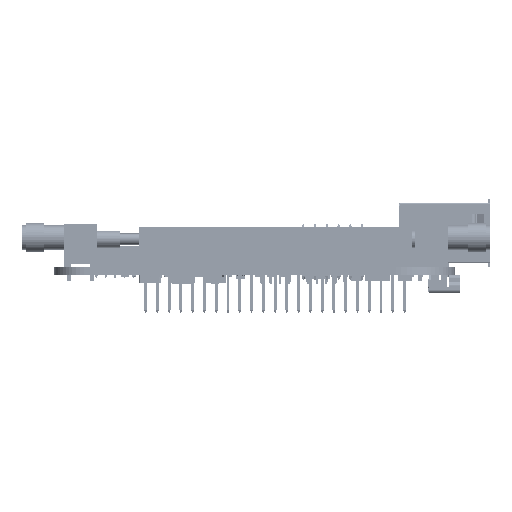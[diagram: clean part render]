
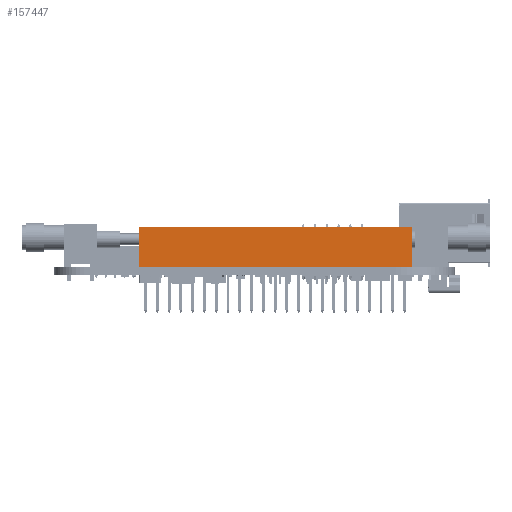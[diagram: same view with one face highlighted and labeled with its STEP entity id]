
A CAD part, front view. The second image highlights one B-rep face of the part: STEP entity #157447.
In plain terms, the highlighted free-form (B-spline) face has degree [1, 1] with [2, 2] control points.
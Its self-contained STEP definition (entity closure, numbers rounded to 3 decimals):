
#157447 = ADVANCED_FACE('',(#157448),#157462,.T.);
#157448 = FACE_BOUND('',#157449,.T.);
#157449 = EDGE_LOOP('',(#157450,#157472,#157487,#157502));
#157450 = ORIENTED_EDGE('',*,*,#157451,.T.);
#157451 = EDGE_CURVE('',#157452,#157454,#157456,.T.);
#157452 = VERTEX_POINT('',#157453);
#157453 = CARTESIAN_POINT('',(-29.464,-4.255,-2.515));
#157454 = VERTEX_POINT('',#157455);
#157455 = CARTESIAN_POINT('',(29.464,-4.255,-2.515));
#157456 = SURFACE_CURVE('',#157457,(#157461),.PCURVE_S1.);
#157457 = LINE('',#157458,#157459);
#157458 = CARTESIAN_POINT('',(-29.464,-4.255,-2.515));
#157459 = VECTOR('',#157460,1.);
#157460 = DIRECTION('',(1.,0.,0.));
#157461 = PCURVE('',#157462,#157467);
#157462 = B_SPLINE_SURFACE_WITH_KNOTS('',1,1,(
    (#157463,#157464)
    ,(#157465,#157466
    )),.UNSPECIFIED.,.F.,.F.,.F.,(2,2),(2,2),(0.,1.),(0.,1.),
  .PIECEWISE_BEZIER_KNOTS.);
#157463 = CARTESIAN_POINT('',(-29.464,-4.255,-2.515));
#157464 = CARTESIAN_POINT('',(-29.464,4.255,-2.515));
#157465 = CARTESIAN_POINT('',(29.464,-4.255,-2.515));
#157466 = CARTESIAN_POINT('',(29.464,4.255,-2.515));
#157467 = DEFINITIONAL_REPRESENTATION('',(#157468),#157471);
#157468 = B_SPLINE_CURVE_WITH_KNOTS('',1,(#157469,#157470),
  .UNSPECIFIED.,.F.,.F.,(2,2),(0.,58.928),
  .PIECEWISE_BEZIER_KNOTS.);
#157469 = CARTESIAN_POINT('',(0.,0.));
#157470 = CARTESIAN_POINT('',(1.,0.));
#157471 = ( GEOMETRIC_REPRESENTATION_CONTEXT(2) 
PARAMETRIC_REPRESENTATION_CONTEXT() REPRESENTATION_CONTEXT('2D SPACE',''
  ) );
#157472 = ORIENTED_EDGE('',*,*,#157473,.T.);
#157473 = EDGE_CURVE('',#157454,#157474,#157476,.T.);
#157474 = VERTEX_POINT('',#157475);
#157475 = CARTESIAN_POINT('',(29.464,4.255,-2.515));
#157476 = SURFACE_CURVE('',#157477,(#157481),.PCURVE_S1.);
#157477 = LINE('',#157478,#157479);
#157478 = CARTESIAN_POINT('',(29.464,-4.255,-2.515));
#157479 = VECTOR('',#157480,1.);
#157480 = DIRECTION('',(0.,1.,0.));
#157481 = PCURVE('',#157462,#157482);
#157482 = DEFINITIONAL_REPRESENTATION('',(#157483),#157486);
#157483 = B_SPLINE_CURVE_WITH_KNOTS('',1,(#157484,#157485),
  .UNSPECIFIED.,.F.,.F.,(2,2),(0.,8.509),.PIECEWISE_BEZIER_KNOTS.);
#157484 = CARTESIAN_POINT('',(1.,0.));
#157485 = CARTESIAN_POINT('',(1.,1.));
#157486 = ( GEOMETRIC_REPRESENTATION_CONTEXT(2) 
PARAMETRIC_REPRESENTATION_CONTEXT() REPRESENTATION_CONTEXT('2D SPACE',''
  ) );
#157487 = ORIENTED_EDGE('',*,*,#157488,.T.);
#157488 = EDGE_CURVE('',#157474,#157489,#157491,.T.);
#157489 = VERTEX_POINT('',#157490);
#157490 = CARTESIAN_POINT('',(-29.464,4.255,-2.515));
#157491 = SURFACE_CURVE('',#157492,(#157496),.PCURVE_S1.);
#157492 = LINE('',#157493,#157494);
#157493 = CARTESIAN_POINT('',(29.464,4.255,-2.515));
#157494 = VECTOR('',#157495,1.);
#157495 = DIRECTION('',(-1.,0.,0.));
#157496 = PCURVE('',#157462,#157497);
#157497 = DEFINITIONAL_REPRESENTATION('',(#157498),#157501);
#157498 = B_SPLINE_CURVE_WITH_KNOTS('',1,(#157499,#157500),
  .UNSPECIFIED.,.F.,.F.,(2,2),(0.,58.928),
  .PIECEWISE_BEZIER_KNOTS.);
#157499 = CARTESIAN_POINT('',(1.,1.));
#157500 = CARTESIAN_POINT('',(0.,1.));
#157501 = ( GEOMETRIC_REPRESENTATION_CONTEXT(2) 
PARAMETRIC_REPRESENTATION_CONTEXT() REPRESENTATION_CONTEXT('2D SPACE',''
  ) );
#157502 = ORIENTED_EDGE('',*,*,#157503,.T.);
#157503 = EDGE_CURVE('',#157489,#157452,#157504,.T.);
#157504 = SURFACE_CURVE('',#157505,(#157509),.PCURVE_S1.);
#157505 = LINE('',#157506,#157507);
#157506 = CARTESIAN_POINT('',(-29.464,4.255,-2.515));
#157507 = VECTOR('',#157508,1.);
#157508 = DIRECTION('',(0.,-1.,0.));
#157509 = PCURVE('',#157462,#157510);
#157510 = DEFINITIONAL_REPRESENTATION('',(#157511),#157514);
#157511 = B_SPLINE_CURVE_WITH_KNOTS('',1,(#157512,#157513),
  .UNSPECIFIED.,.F.,.F.,(2,2),(0.,8.509),.PIECEWISE_BEZIER_KNOTS.);
#157512 = CARTESIAN_POINT('',(0.,1.));
#157513 = CARTESIAN_POINT('',(0.,0.));
#157514 = ( GEOMETRIC_REPRESENTATION_CONTEXT(2) 
PARAMETRIC_REPRESENTATION_CONTEXT() REPRESENTATION_CONTEXT('2D SPACE',''
  ) );
